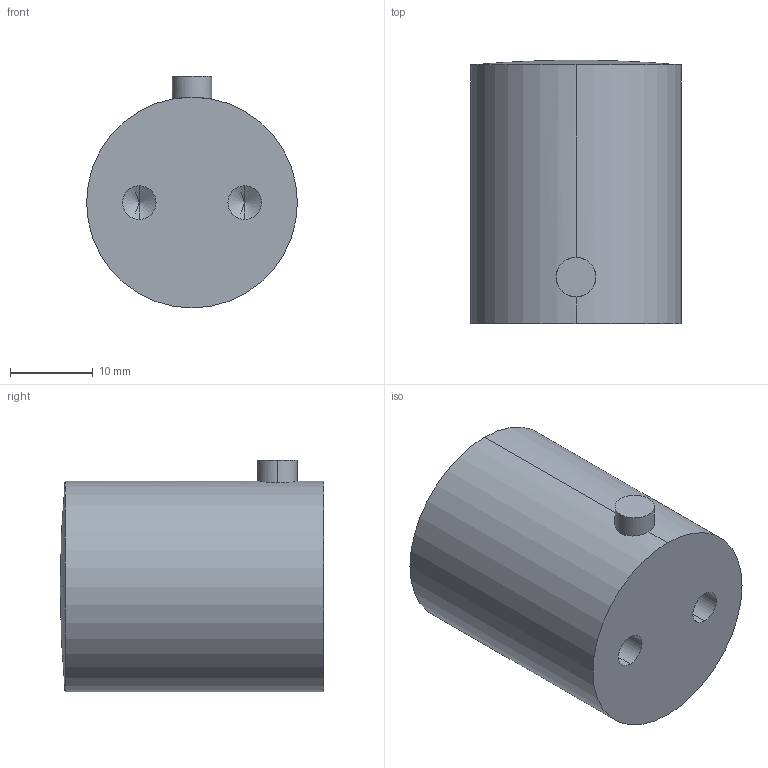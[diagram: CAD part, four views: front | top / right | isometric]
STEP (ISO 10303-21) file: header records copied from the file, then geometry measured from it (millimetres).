
FILE_DESCRIPTION (( 'STEP AP214' ), '1' );
FILE_NAME ('TT50-20KLB.STEP', '2024-08-23T18:34:11', ( '' ), ( '' ), 'SwSTEP 2.0', 'SolidWorks 2008', '' );
FILE_SCHEMA (( 'AUTOMOTIVE_DESIGN' ));
Length unit declared in the file: inch
Products named in the file (1): TT50-20KLB
Bounding box: 25.4 x 31.75 x 27.94 mm (x, y, z)
Volume: 15847 mm3; surface area: 3674.5 mm2
Topology: 1 solids, 1 shells, 16 faces, 39 edges, 23 vertices
Faces by surface type: cylinder 8, cone 4, sphere 2, plane 2
Entity records: 582 total; most frequent: CARTESIAN_POINT 137, DIRECTION 83, ORIENTED_EDGE 70, EDGE_CURVE 35, AXIS2_PLACEMENT_3D 35, VERTEX_POINT 23, EDGE_LOOP 18, CIRCLE 18
